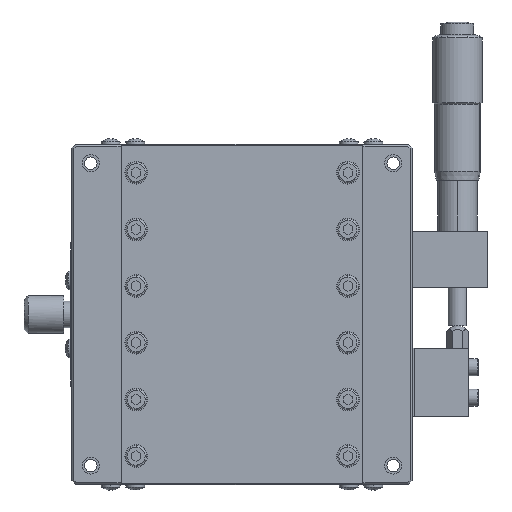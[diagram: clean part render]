
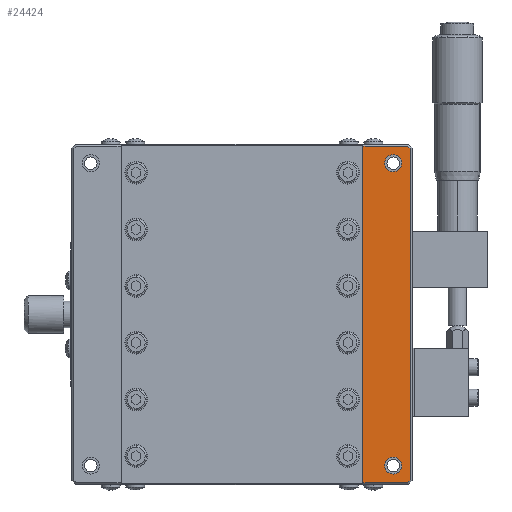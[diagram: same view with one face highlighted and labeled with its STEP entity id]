
A CAD part, front view. The second image highlights one B-rep face of the part: STEP entity #24424.
In plain terms, the highlighted planar face has unit normal (0, -1, 0).
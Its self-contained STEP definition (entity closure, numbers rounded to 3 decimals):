
#1455 = AXIS2_PLACEMENT_3D ( 'NONE', #18042, #18032, #18048 ) ;
#5153 = EDGE_CURVE ( 'NONE', #20926, #20883, #6190, .T. ) ;
#5154 = EDGE_CURVE ( 'NONE', #21092, #21100, #24771, .T. ) ;
#5155 = EDGE_CURVE ( 'NONE', #20894, #20883, #16316, .T. ) ;
#5156 = EDGE_CURVE ( 'NONE', #20913, #20894, #16315, .T. ) ;
#5157 = EDGE_CURVE ( 'NONE', #21184, #21095, #24775, .T. ) ;
#6190 = LINE ( 'NONE', #6198, #24767 ) ;
#6198 = CARTESIAN_POINT ( 'NONE',  ( 142.343, 4.25, -24.167 ) ) ;
#7536 = EDGE_CURVE ( 'NONE', #21095, #21184, #24839, .T. ) ;
#7540 = EDGE_CURVE ( 'NONE', #21100, #21092, #24845, .T. ) ;
#8756 = EDGE_CURVE ( 'NONE', #20931, #20926, #22049, .T. ) ;
#8758 = EDGE_CURVE ( 'NONE', #20924, #20931, #22032, .T. ) ;
#8762 = EDGE_CURVE ( 'NONE', #20924, #20913, #22084, .T. ) ;
#16314 = DIRECTION ( 'NONE',  ( 0.707, 0., 0.707 ) ) ;
#16315 = LINE ( 'NONE', #16322, #24773 ) ;
#16316 = LINE ( 'NONE', #16320, #24772 ) ;
#16317 = CARTESIAN_POINT ( 'NONE',  ( 138.55, 4.25, 60.333 ) ) ;
#16318 = DIRECTION ( 'NONE',  ( 0., -1., 0. ) ) ;
#16319 = DIRECTION ( 'NONE',  ( 0., 0., 1. ) ) ;
#16320 = CARTESIAN_POINT ( 'NONE',  ( 143.05, 4.25, 65.333 ) ) ;
#16321 = DIRECTION ( 'NONE',  ( 0., 0., -1. ) ) ;
#16322 = CARTESIAN_POINT ( 'NONE',  ( 142.343, 4.25, 64.833 ) ) ;
#16324 = DIRECTION ( 'NONE',  ( 0.707, 0., -0.707 ) ) ;
#16326 = CARTESIAN_POINT ( 'NONE',  ( 138.55, 4.25, -19.667 ) ) ;
#16327 = DIRECTION ( 'NONE',  ( 0., -1., 0. ) ) ;
#16328 = DIRECTION ( 'NONE',  ( 0., 0., 1. ) ) ;
#16469 = CARTESIAN_POINT ( 'NONE',  ( 138.55, 4.25, -19.667 ) ) ;
#16470 = DIRECTION ( 'NONE',  ( 0., -1., 0. ) ) ;
#16471 = DIRECTION ( 'NONE',  ( 0., 0., 1. ) ) ;
#16481 = CARTESIAN_POINT ( 'NONE',  ( 138.55, 4.25, 60.333 ) ) ;
#16482 = DIRECTION ( 'NONE',  ( 0., -1., 0. ) ) ;
#16483 = DIRECTION ( 'NONE',  ( 0., 0., 1. ) ) ;
#18032 = DIRECTION ( 'NONE',  ( 0., 1., 0. ) ) ;
#18039 = FACE_OUTER_BOUND ( 'NONE', #23971, .T. ) ;
#18042 = CARTESIAN_POINT ( 'NONE',  ( 143.55, 4.25, 65.333 ) ) ;
#18043 = FACE_BOUND ( 'NONE', #23967, .T. ) ;
#18045 = FACE_BOUND ( 'NONE', #23972, .T. ) ;
#18046 = PLANE ( 'NONE',  #1455 ) ;
#18048 = DIRECTION ( 'NONE',  ( 0., 0., 1. ) ) ;
#20883 = VERTEX_POINT ( 'NONE', #27684 ) ;
#20894 = VERTEX_POINT ( 'NONE', #27690 ) ;
#20913 = VERTEX_POINT ( 'NONE', #27702 ) ;
#20924 = VERTEX_POINT ( 'NONE', #27709 ) ;
#20926 = VERTEX_POINT ( 'NONE', #27710 ) ;
#20931 = VERTEX_POINT ( 'NONE', #27713 ) ;
#21092 = VERTEX_POINT ( 'NONE', #27807 ) ;
#21095 = VERTEX_POINT ( 'NONE', #27810 ) ;
#21100 = VERTEX_POINT ( 'NONE', #27813 ) ;
#21184 = VERTEX_POINT ( 'NONE', #27861 ) ;
#22032 = LINE ( 'NONE', #22060, #25322 ) ;
#22049 = LINE ( 'NONE', #22052, #25325 ) ;
#22052 = CARTESIAN_POINT ( 'NONE',  ( 143.55, 4.25, -24.167 ) ) ;
#22053 = DIRECTION ( 'NONE',  ( 1., 0., 0. ) ) ;
#22060 = CARTESIAN_POINT ( 'NONE',  ( 130.55, 4.25, 65.333 ) ) ;
#22063 = DIRECTION ( 'NONE',  ( 0., 0., -1. ) ) ;
#22084 = LINE ( 'NONE', #22087, #25337 ) ;
#22087 = CARTESIAN_POINT ( 'NONE',  ( 143.55, 4.25, 64.833 ) ) ;
#22089 = DIRECTION ( 'NONE',  ( 1., 0., 0. ) ) ;
#23403 = ORIENTED_EDGE ( 'NONE', *, *, #5157, .F. ) ;
#23404 = ORIENTED_EDGE ( 'NONE', *, *, #7536, .F. ) ;
#23405 = ORIENTED_EDGE ( 'NONE', *, *, #8758, .T. ) ;
#23406 = ORIENTED_EDGE ( 'NONE', *, *, #8762, .F. ) ;
#23407 = ORIENTED_EDGE ( 'NONE', *, *, #5156, .F. ) ;
#23408 = ORIENTED_EDGE ( 'NONE', *, *, #5155, .F. ) ;
#23409 = ORIENTED_EDGE ( 'NONE', *, *, #5153, .T. ) ;
#23410 = ORIENTED_EDGE ( 'NONE', *, *, #8756, .T. ) ;
#23411 = ORIENTED_EDGE ( 'NONE', *, *, #5154, .F. ) ;
#23412 = ORIENTED_EDGE ( 'NONE', *, *, #7540, .F. ) ;
#23967 = EDGE_LOOP ( 'NONE', ( #23412, #23411 ) ) ;
#23971 = EDGE_LOOP ( 'NONE', ( #23410, #23409, #23408, #23407, #23406, #23405 ) ) ;
#23972 = EDGE_LOOP ( 'NONE', ( #23404, #23403 ) ) ;
#24424 = ADVANCED_FACE ( 'NONE', ( #18043, #18039, #18045 ), #18046, .F. ) ;
#24767 = VECTOR ( 'NONE', #16314, 1000. ) ;
#24771 = CIRCLE ( 'NONE', #24774, 2.25 ) ;
#24772 = VECTOR ( 'NONE', #16321, 1000. ) ;
#24773 = VECTOR ( 'NONE', #16324, 1000. ) ;
#24774 = AXIS2_PLACEMENT_3D ( 'NONE', #16317, #16318, #16319 ) ;
#24775 = CIRCLE ( 'NONE', #24778, 2.25 ) ;
#24778 = AXIS2_PLACEMENT_3D ( 'NONE', #16326, #16327, #16328 ) ;
#24839 = CIRCLE ( 'NONE', #24841, 2.25 ) ;
#24841 = AXIS2_PLACEMENT_3D ( 'NONE', #16469, #16470, #16471 ) ;
#24845 = CIRCLE ( 'NONE', #24847, 2.25 ) ;
#24847 = AXIS2_PLACEMENT_3D ( 'NONE', #16481, #16482, #16483 ) ;
#25322 = VECTOR ( 'NONE', #22063, 1000. ) ;
#25325 = VECTOR ( 'NONE', #22053, 1000. ) ;
#25337 = VECTOR ( 'NONE', #22089, 1000. ) ;
#27684 = CARTESIAN_POINT ( 'NONE',  ( 143.05, 4.25, -23.46 ) ) ;
#27690 = CARTESIAN_POINT ( 'NONE',  ( 143.05, 4.25, 64.126 ) ) ;
#27702 = CARTESIAN_POINT ( 'NONE',  ( 142.343, 4.25, 64.833 ) ) ;
#27709 = CARTESIAN_POINT ( 'NONE',  ( 130.55, 4.25, 64.833 ) ) ;
#27710 = CARTESIAN_POINT ( 'NONE',  ( 142.343, 4.25, -24.167 ) ) ;
#27713 = CARTESIAN_POINT ( 'NONE',  ( 130.55, 4.25, -24.167 ) ) ;
#27807 = CARTESIAN_POINT ( 'NONE',  ( 138.55, 4.25, 58.083 ) ) ;
#27810 = CARTESIAN_POINT ( 'NONE',  ( 138.55, 4.25, -17.417 ) ) ;
#27813 = CARTESIAN_POINT ( 'NONE',  ( 138.55, 4.25, 62.583 ) ) ;
#27861 = CARTESIAN_POINT ( 'NONE',  ( 138.55, 4.25, -21.917 ) ) ;
